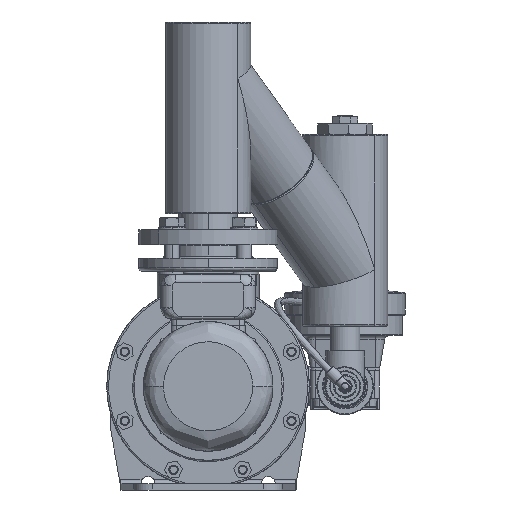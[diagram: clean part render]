
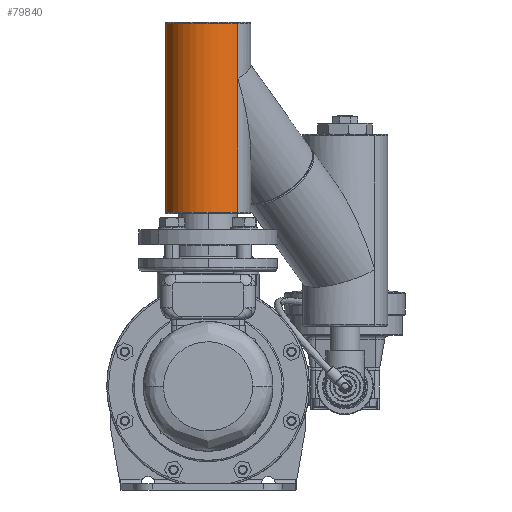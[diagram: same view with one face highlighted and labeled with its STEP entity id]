
A CAD part, front view. The second image highlights one B-rep face of the part: STEP entity #79840.
In plain terms, the highlighted cylindrical face has radius 46 mm (diameter 92 mm), a partial arc.
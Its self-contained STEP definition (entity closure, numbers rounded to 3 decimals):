
#27161 = VERTEX_POINT ( 'NONE', #43575 ) ;
#27164 = VERTEX_POINT ( 'NONE', #43580 ) ;
#40566 = VERTEX_POINT ( 'NONE', #60157 ) ;
#40568 = EDGE_CURVE ( 'NONE', #40566, #40628, #60152, .T. ) ;
#40589 = VERTEX_POINT ( 'NONE', #60193 ) ;
#40592 = VERTEX_POINT ( 'NONE', #60189 ) ;
#40610 = EDGE_CURVE ( 'NONE', #40589, #40592, #60198, .T. ) ;
#40628 = VERTEX_POINT ( 'NONE', #60279 ) ;
#40769 = EDGE_CURVE ( 'NONE', #27161, #40628, #61024, .T. ) ;
#40784 = EDGE_CURVE ( 'NONE', #40589, #27161, #61048, .T. ) ;
#40789 = EDGE_CURVE ( 'NONE', #40592, #27164, #61088, .T. ) ;
#40793 = EDGE_CURVE ( 'NONE', #27164, #40566, #61078, .T. ) ;
#43575 = CARTESIAN_POINT ( 'NONE',  ( -186.707, -231.616, 357.475 ) ) ;
#43580 = CARTESIAN_POINT ( 'NONE',  ( -122.557, -297.561, 357.475 ) ) ;
#60141 = DIRECTION ( 'NONE',  ( 0.697, -0.717, 0. ) ) ;
#60142 = DIRECTION ( 'NONE',  ( 0., 0., -1. ) ) ;
#60143 = CARTESIAN_POINT ( 'NONE',  ( -154.632, -264.588, 417.2 ) ) ;
#60144 = AXIS2_PLACEMENT_3D ( 'NONE', #60143, #60142, #60141 ) ;
#60152 = CIRCLE ( 'NONE', #60144, 46. ) ;
#60157 = CARTESIAN_POINT ( 'NONE',  ( -122.557, -297.561, 417.2 ) ) ;
#60189 = CARTESIAN_POINT ( 'NONE',  ( -122.557, -297.561, 212.75 ) ) ;
#60193 = CARTESIAN_POINT ( 'NONE',  ( -186.707, -231.616, 212.75 ) ) ;
#60198 = CIRCLE ( 'NONE', #60243, 46. ) ;
#60234 = DIRECTION ( 'NONE',  ( 0.697, -0.717, 0. ) ) ;
#60235 = DIRECTION ( 'NONE',  ( 0., 0., 1. ) ) ;
#60236 = CARTESIAN_POINT ( 'NONE',  ( -154.632, -264.588, 212.75 ) ) ;
#60243 = AXIS2_PLACEMENT_3D ( 'NONE', #60236, #60235, #60234 ) ;
#60279 = CARTESIAN_POINT ( 'NONE',  ( -186.707, -231.616, 417.2 ) ) ;
#61022 = VECTOR ( 'NONE', #61070, 1000. ) ;
#61023 = CARTESIAN_POINT ( 'NONE',  ( -186.707, -231.616, 314.975 ) ) ;
#61024 = LINE ( 'NONE', #61023, #61022 ) ;
#61048 = LINE ( 'NONE', #61068, #61087 ) ;
#61068 = CARTESIAN_POINT ( 'NONE',  ( -186.707, -231.616, 314.975 ) ) ;
#61070 = DIRECTION ( 'NONE',  ( 0., 0., 1. ) ) ;
#61071 = DIRECTION ( 'NONE',  ( 0., 0., 1. ) ) ;
#61072 = CARTESIAN_POINT ( 'NONE',  ( -122.557, -297.561, 314.975 ) ) ;
#61075 = DIRECTION ( 'NONE',  ( 0., 0., 1. ) ) ;
#61076 = VECTOR ( 'NONE', #61075, 1000. ) ;
#61077 = CARTESIAN_POINT ( 'NONE',  ( -122.557, -297.561, 314.975 ) ) ;
#61078 = LINE ( 'NONE', #61072, #61099 ) ;
#61086 = DIRECTION ( 'NONE',  ( 0., 0., 1. ) ) ;
#61087 = VECTOR ( 'NONE', #61086, 1000. ) ;
#61088 = LINE ( 'NONE', #61077, #61076 ) ;
#61099 = VECTOR ( 'NONE', #61071, 1000. ) ;
#78892 = CYLINDRICAL_SURFACE ( 'NONE', #78909, 46. ) ;
#78898 = CARTESIAN_POINT ( 'NONE',  ( -154.632, -264.588, 314.975 ) ) ;
#78909 = AXIS2_PLACEMENT_3D ( 'NONE', #78898, #79070, #79050 ) ;
#79050 = DIRECTION ( 'NONE',  ( 0.697, -0.717, 0. ) ) ;
#79062 = FACE_OUTER_BOUND ( 'NONE', #79805, .T. ) ;
#79070 = DIRECTION ( 'NONE',  ( 0., 0., 1. ) ) ;
#79688 = ORIENTED_EDGE ( 'NONE', *, *, #40610, .T. ) ;
#79743 = ORIENTED_EDGE ( 'NONE', *, *, #40568, .T. ) ;
#79805 = EDGE_LOOP ( 'NONE', ( #79848, #79688, #79843, #79911, #79743, #79927 ) ) ;
#79840 = ADVANCED_FACE ( 'NONE', ( #79062 ), #78892, .T. ) ;
#79843 = ORIENTED_EDGE ( 'NONE', *, *, #40789, .T. ) ;
#79848 = ORIENTED_EDGE ( 'NONE', *, *, #40784, .F. ) ;
#79911 = ORIENTED_EDGE ( 'NONE', *, *, #40793, .T. ) ;
#79927 = ORIENTED_EDGE ( 'NONE', *, *, #40769, .F. ) ;
